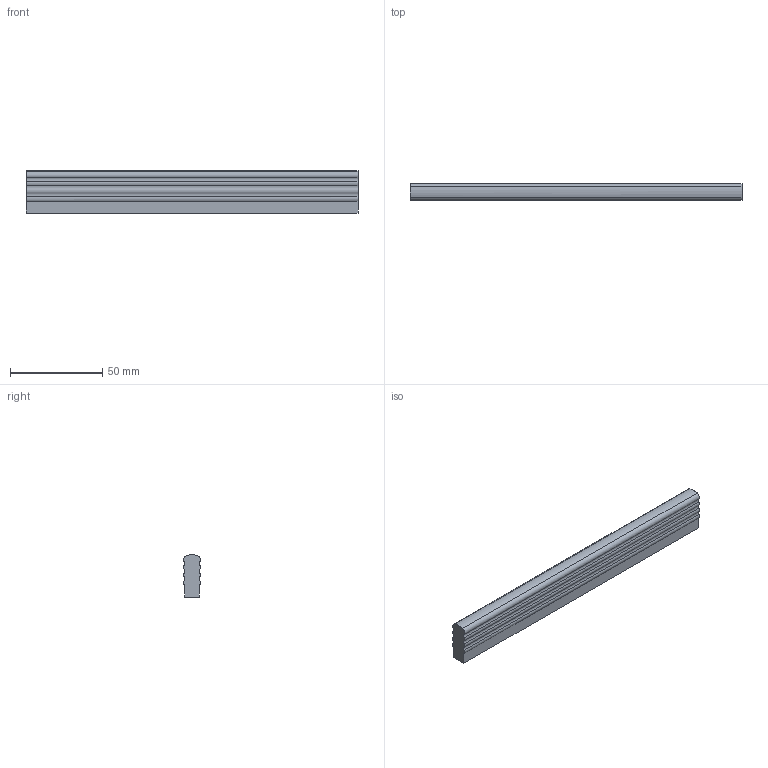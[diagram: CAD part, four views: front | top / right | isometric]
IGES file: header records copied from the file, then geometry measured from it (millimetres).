
Start section: C
Global section: file name: 8217-180.igs; native system: By Siemens PLM Incorporated; preprocessor: XPlus GENERIC/IGES 16.0.42; author: Author; organization: Title; date: 20231115.113127; units: millimetre
Bounding box: 180 x 9 x 22.98 mm (x, y, z)
Surface area: 11660.1 mm2 (no closed solid volume)
Topology: 0 solids, 0 shells, 24 faces, 128 edges, 128 vertices
Faces by surface type: bspline 24
